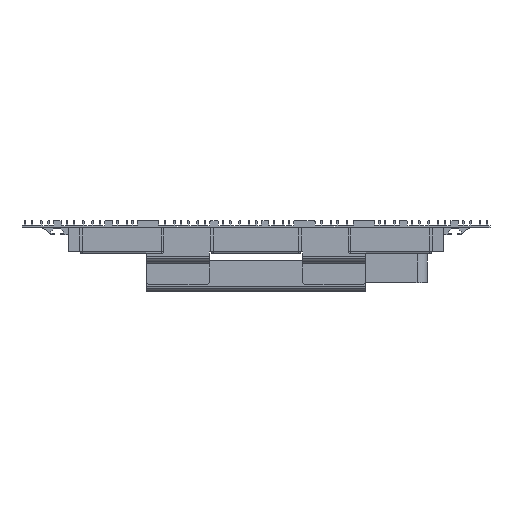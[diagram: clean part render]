
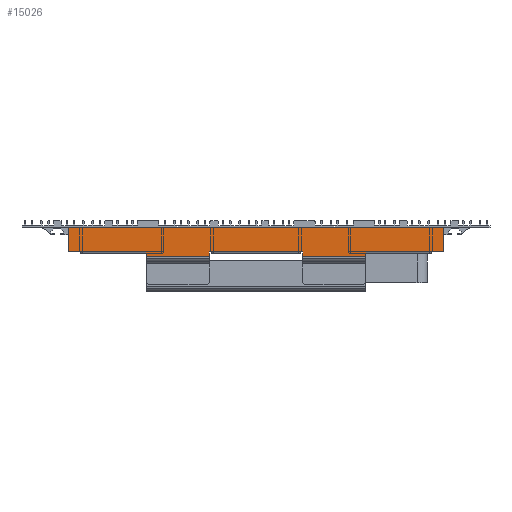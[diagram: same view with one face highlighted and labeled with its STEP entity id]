
A CAD part, front view. The second image highlights one B-rep face of the part: STEP entity #15026.
In plain terms, the highlighted planar face has unit normal (0, -1, 0).
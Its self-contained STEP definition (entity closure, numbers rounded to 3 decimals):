
#1120=DIRECTION('',(-1.,0.,0.));
#1121=VECTOR('',#1120,105.5);
#1122=CARTESIAN_POINT('',(-76.,-883.,0.));
#1123=LINE('',#1122,#1121);
#1915=DIRECTION('',(-1.,0.,0.));
#1916=VECTOR('',#1915,105.5);
#1917=CARTESIAN_POINT('',(181.5,-883.,0.));
#1918=LINE('',#1917,#1916);
#2166=DIRECTION('',(0.,0.,-1.));
#2167=VECTOR('',#2166,20.3);
#2168=CARTESIAN_POINT('',(181.5,-883.,0.));
#2169=LINE('',#2168,#2167);
#2259=CARTESIAN_POINT('',(-178.5,-883.,-20.3));
#2260=DIRECTION('',(0.,-1.,0.));
#2261=DIRECTION('',(-1.,0.,0.));
#2262=AXIS2_PLACEMENT_3D('',#2259,#2260,#2261);
#2267=DIRECTION('',(-1.,0.,0.));
#2268=VECTOR('',#2267,1.75);
#2269=CARTESIAN_POINT('',(-74.25,-883.,0.));
#2270=LINE('',#2269,#2268);
#2274=DIRECTION('',(-1.,0.,0.));
#2275=VECTOR('',#2274,1.75);
#2276=CARTESIAN_POINT('',(76.,-883.,0.));
#2277=LINE('',#2276,#2275);
#2281=CARTESIAN_POINT('',(178.5,-883.,-20.3));
#2282=DIRECTION('',(0.,-1.,0.));
#2283=DIRECTION('',(0.,0.,-1.));
#2284=AXIS2_PLACEMENT_3D('',#2281,#2282,#2283);
#2289=DIRECTION('',(-1.,0.,0.));
#2290=VECTOR('',#2289,72.5);
#2291=CARTESIAN_POINT('',(178.5,-883.,-23.3));
#2292=LINE('',#2291,#2290);
#2296=DIRECTION('',(0.,0.,1.));
#2297=VECTOR('',#2296,4.5);
#2298=CARTESIAN_POINT('',(106.,-883.,-27.8));
#2299=LINE('',#2298,#2297);
#2303=DIRECTION('',(0.,0.,1.));
#2304=VECTOR('',#2303,4.5);
#2305=CARTESIAN_POINT('',(45.,-883.,-27.8));
#2306=LINE('',#2305,#2304);
#2310=DIRECTION('',(1.,0.,0.));
#2311=VECTOR('',#2310,90.);
#2312=CARTESIAN_POINT('',(-45.,-883.,-23.3));
#2313=LINE('',#2312,#2311);
#2317=DIRECTION('',(0.,0.,1.));
#2318=VECTOR('',#2317,4.5);
#2319=CARTESIAN_POINT('',(-45.,-883.,-27.8));
#2320=LINE('',#2319,#2318);
#2324=DIRECTION('',(0.,0.,1.));
#2325=VECTOR('',#2324,4.5);
#2326=CARTESIAN_POINT('',(-106.,-883.,-27.8));
#2327=LINE('',#2326,#2325);
#2331=DIRECTION('',(1.,0.,0.));
#2332=VECTOR('',#2331,72.5);
#2333=CARTESIAN_POINT('',(-178.5,-883.,-23.3));
#2334=LINE('',#2333,#2332);
#2373=DIRECTION('',(0.,0.,-1.));
#2374=VECTOR('',#2373,20.3);
#2375=CARTESIAN_POINT('',(-181.5,-883.,0.));
#2376=LINE('',#2375,#2374);
#3378=DIRECTION('',(-1.,0.,0.));
#3379=VECTOR('',#3378,61.);
#3380=CARTESIAN_POINT('',(106.,-883.,-27.8));
#3381=LINE('',#3380,#3379);
#3401=DIRECTION('',(-1.,0.,0.));
#3402=VECTOR('',#3401,61.);
#3403=CARTESIAN_POINT('',(-45.,-883.,-27.8));
#3404=LINE('',#3403,#3402);
#3569=DIRECTION('',(-1.,0.,0.));
#3570=VECTOR('',#3569,148.5);
#3571=CARTESIAN_POINT('',(74.25,-883.,0.));
#3572=LINE('',#3571,#3570);
#12808=CARTESIAN_POINT('',(-74.25,-883.,0.));
#12809=VERTEX_POINT('',#12808);
#12812=CARTESIAN_POINT('',(76.,-883.,0.));
#12813=VERTEX_POINT('',#12812);
#12824=CARTESIAN_POINT('',(74.25,-883.,0.));
#12825=VERTEX_POINT('',#12824);
#12826=CARTESIAN_POINT('',(-76.,-883.,0.));
#12827=VERTEX_POINT('',#12826);
#12912=CARTESIAN_POINT('',(106.,-883.,-27.8));
#12913=CARTESIAN_POINT('',(106.,-883.,-23.3));
#12914=VERTEX_POINT('',#12912);
#12915=VERTEX_POINT('',#12913);
#12916=CARTESIAN_POINT('',(-45.,-883.,-27.8));
#12917=CARTESIAN_POINT('',(-45.,-883.,-23.3));
#12918=VERTEX_POINT('',#12916);
#12919=VERTEX_POINT('',#12917);
#12920=CARTESIAN_POINT('',(45.,-883.,-23.3));
#12921=VERTEX_POINT('',#12920);
#12922=CARTESIAN_POINT('',(45.,-883.,-27.8));
#12923=VERTEX_POINT('',#12922);
#12924=CARTESIAN_POINT('',(-106.,-883.,-27.8));
#12925=CARTESIAN_POINT('',(-106.,-883.,-23.3));
#12926=VERTEX_POINT('',#12924);
#12927=VERTEX_POINT('',#12925);
#13048=CARTESIAN_POINT('',(-181.5,-883.,-20.3));
#13049=CARTESIAN_POINT('',(-178.5,-883.,-23.3));
#13050=VERTEX_POINT('',#13048);
#13051=VERTEX_POINT('',#13049);
#13092=CARTESIAN_POINT('',(178.5,-883.,-23.3));
#13093=VERTEX_POINT('',#13092);
#13094=CARTESIAN_POINT('',(181.5,-883.,-20.3));
#13095=VERTEX_POINT('',#13094);
#13096=CARTESIAN_POINT('',(181.5,-883.,0.));
#13097=VERTEX_POINT('',#13096);
#13100=CARTESIAN_POINT('',(-181.5,-883.,0.));
#13101=VERTEX_POINT('',#13100);
#14988=CARTESIAN_POINT('',(181.5,-883.,0.));
#14989=DIRECTION('',(0.,-1.,0.));
#14990=DIRECTION('',(0.,0.,-1.));
#14991=AXIS2_PLACEMENT_3D('',#14988,#14989,#14990);
#14992=PLANE('',#14991);
#14993=ORIENTED_EDGE('',*,*,#14978,.F.);
#14995=ORIENTED_EDGE('',*,*,#14994,.F.);
#14996=ORIENTED_EDGE('',*,*,#14262,.F.);
#14998=ORIENTED_EDGE('',*,*,#14997,.F.);
#15000=ORIENTED_EDGE('',*,*,#14999,.F.);
#15002=ORIENTED_EDGE('',*,*,#15001,.F.);
#15003=ORIENTED_EDGE('',*,*,#14768,.F.);
#15004=ORIENTED_EDGE('',*,*,#14910,.T.);
#15005=ORIENTED_EDGE('',*,*,#14927,.F.);
#15007=ORIENTED_EDGE('',*,*,#15006,.T.);
#15009=ORIENTED_EDGE('',*,*,#15008,.F.);
#15011=ORIENTED_EDGE('',*,*,#15010,.T.);
#15013=ORIENTED_EDGE('',*,*,#15012,.T.);
#15015=ORIENTED_EDGE('',*,*,#15014,.F.);
#15017=ORIENTED_EDGE('',*,*,#15016,.F.);
#15019=ORIENTED_EDGE('',*,*,#15018,.T.);
#15021=ORIENTED_EDGE('',*,*,#15020,.T.);
#15023=ORIENTED_EDGE('',*,*,#15022,.F.);
#15024=EDGE_LOOP('',(#14993,#14995,#14996,#14998,#15000,#15002,#15003,#15004,
#15005,#15007,#15009,#15011,#15013,#15015,#15017,#15019,#15021,#15023));
#15025=FACE_OUTER_BOUND('',#15024,.F.);
#2263=CIRCLE('',#2262,3.);
#2285=CIRCLE('',#2284,3.);
#14262=EDGE_CURVE('',#12827,#13101,#1123,.T.);
#14768=EDGE_CURVE('',#13097,#12813,#1918,.T.);
#14910=EDGE_CURVE('',#13097,#13095,#2169,.T.);
#14927=EDGE_CURVE('',#13093,#13095,#2285,.T.);
#14978=EDGE_CURVE('',#13050,#13051,#2263,.T.);
#14994=EDGE_CURVE('',#13101,#13050,#2376,.T.);
#14997=EDGE_CURVE('',#12809,#12827,#2270,.T.);
#14999=EDGE_CURVE('',#12825,#12809,#3572,.T.);
#15001=EDGE_CURVE('',#12813,#12825,#2277,.T.);
#15006=EDGE_CURVE('',#13093,#12915,#2292,.T.);
#15008=EDGE_CURVE('',#12914,#12915,#2299,.T.);
#15010=EDGE_CURVE('',#12914,#12923,#3381,.T.);
#15012=EDGE_CURVE('',#12923,#12921,#2306,.T.);
#15014=EDGE_CURVE('',#12919,#12921,#2313,.T.);
#15016=EDGE_CURVE('',#12918,#12919,#2320,.T.);
#15018=EDGE_CURVE('',#12918,#12926,#3404,.T.);
#15020=EDGE_CURVE('',#12926,#12927,#2327,.T.);
#15022=EDGE_CURVE('',#13051,#12927,#2334,.T.);
#15026=ADVANCED_FACE('',(#15025),#14992,.T.);
